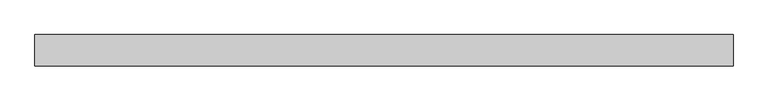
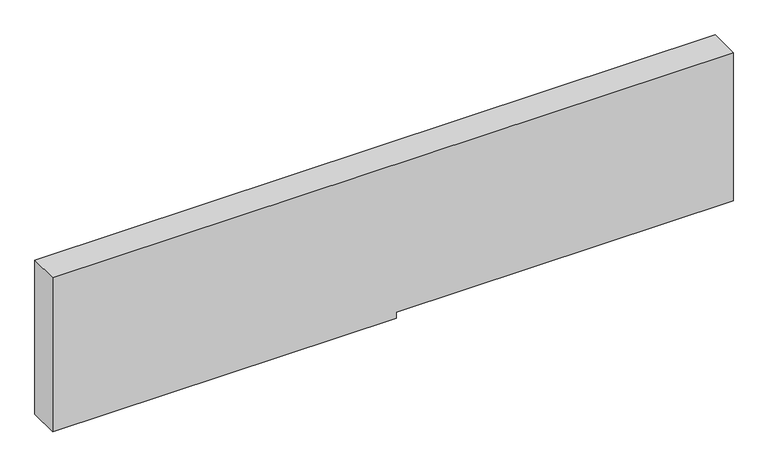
"""IFC4 building model written with IfcOpenShell, lengths in millimetres: plate geometry, Пустая системная панель : Пустая системная панель."""

from ifc_helpers import new_model, si_unit, frame, origin, place, context, project, spatial, polyline, outline, extrude, source, transform, mapped, element, save


def plate_72cab72d(model_context):
    return source(origin(), model_context, "Body", "SweptSolid", [
        extrude(outline(polyline([(0.0, -1106.75), (0.0, 10.75), (20.0, 10.75), (20.0, 1106.75), (530.0, 1106.75), (530.0, -1106.75), (0.0, -1106.75)])), frame((0.0, -50.0, 0.0), z_axis=(0.0, 1.0, 0.0), x_axis=(0.0, 0.0, 1.0)), (0.0, 0.0, 1.0), 100.0),
    ])


if __name__ == "__main__":
    model = new_model("IFC4")
    model_context = context("Model", 3, world=origin())
    ifc_project = project(units=[si_unit("LENGTHUNIT", "METRE", prefix="MILLI")], contexts=[model_context])
    site = spatial("IfcSite", under=ifc_project)
    building = spatial("IfcBuilding", under=site)
    placement = place(None, origin())
    plate_shape = plate_72cab72d(model_context)
    element("IfcPlate", 1, ObjectType="Пустая системная панель : Пустая системная панель", at=placement, inside=building, context=model_context, shape_type="MappedRepresentation", body=[
        mapped(plate_shape, transform((0.0, 0.0, 0.0), x_axis=(1.0, 0.0, 0.0), y_axis=(0.0, 1.0, 0.0), z_axis=(0.0, 0.0, 1.0))),
    ])
    save(model, "model.ifc")
